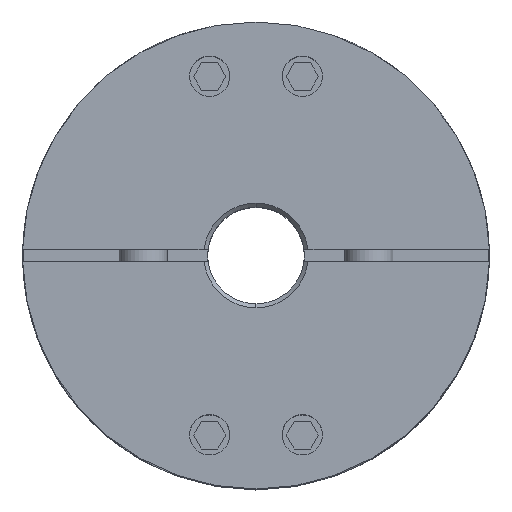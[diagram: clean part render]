
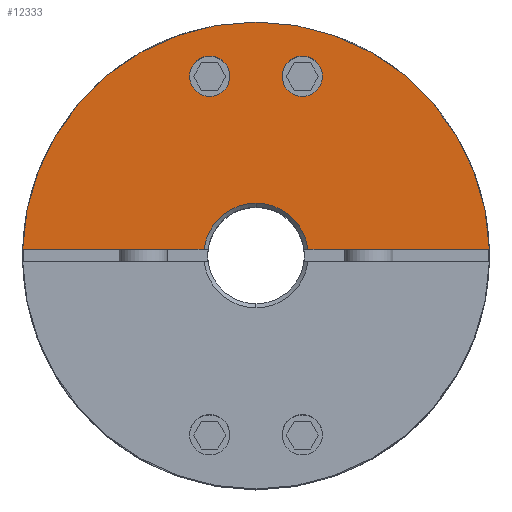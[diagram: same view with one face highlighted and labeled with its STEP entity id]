
A CAD part, top view. The second image highlights one B-rep face of the part: STEP entity #12333.
In plain terms, the highlighted planar face has unit normal (0, 0, 1).
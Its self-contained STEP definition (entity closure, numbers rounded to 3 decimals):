
#4817=CARTESIAN_POINT('',(5.759,24.767,35.75));
#4818=VERTEX_POINT('',#4817);
#4827=CARTESIAN_POINT('',(5.759,19.767,35.75));
#4828=VERTEX_POINT('',#4827);
#4829=CARTESIAN_POINT('',(5.759,22.267,35.75));
#4830=DIRECTION('',(0.0,0.0,-1.0));
#4831=DIRECTION('',(0.0,1.0,0.0));
#4832=AXIS2_PLACEMENT_3D('',#4829,#4830,#4831);
#4833=CIRCLE('',#4832,2.5);
#4834=EDGE_CURVE('',#4828,#4818,#4833,.T.);
#4859=CARTESIAN_POINT('',(-5.759,24.767,35.75));
#4860=VERTEX_POINT('',#4859);
#4869=CARTESIAN_POINT('',(-5.759,19.767,35.75));
#4870=VERTEX_POINT('',#4869);
#4871=CARTESIAN_POINT('',(-5.759,22.267,35.75));
#4872=DIRECTION('',(0.0,0.0,-1.0));
#4873=DIRECTION('',(0.0,1.0,0.0));
#4874=AXIS2_PLACEMENT_3D('',#4871,#4872,#4873);
#4875=CIRCLE('',#4874,2.5);
#4876=EDGE_CURVE('',#4870,#4860,#4875,.T.);
#5113=CARTESIAN_POINT('',(0.,29.0,35.75));
#5114=VERTEX_POINT('',#5113);
#5262=CARTESIAN_POINT('',(-28.99,0.75,35.75));
#5263=VERTEX_POINT('',#5262);
#5270=CARTESIAN_POINT('',(0.,0.0,35.75));
#5271=DIRECTION('',(0.0,0.0,-1.0));
#5272=DIRECTION('',(0.0,1.0,0.0));
#5273=AXIS2_PLACEMENT_3D('',#5270,#5271,#5272);
#5274=CIRCLE('',#5273,29.0);
#5275=EDGE_CURVE('',#5263,#5114,#5274,.T.);
#5447=CARTESIAN_POINT('',(0.,6.5,35.75));
#5448=VERTEX_POINT('',#5447);
#5464=CARTESIAN_POINT('',(6.457,0.75,35.75));
#5465=VERTEX_POINT('',#5464);
#5479=CARTESIAN_POINT('',(0.,0.0,35.75));
#5480=DIRECTION('',(0.0,0.0,1.0));
#5481=DIRECTION('',(0.0,1.0,0.0));
#5482=AXIS2_PLACEMENT_3D('',#5479,#5480,#5481);
#5483=CIRCLE('',#5482,6.5);
#5484=EDGE_CURVE('',#5465,#5448,#5483,.T.);
#11839=CARTESIAN_POINT('',(-6.457,0.75,35.75));
#11840=VERTEX_POINT('',#11839);
#11841=CARTESIAN_POINT('',(0.,0.0,35.75));
#11842=DIRECTION('',(0.0,0.0,1.0));
#11843=DIRECTION('',(0.0,1.0,0.0));
#11844=AXIS2_PLACEMENT_3D('',#11841,#11842,#11843);
#11845=CIRCLE('',#11844,6.5);
#11846=EDGE_CURVE('',#5448,#11840,#11845,.T.);
#11871=CARTESIAN_POINT('',(-28.99,0.75,35.75));
#11872=DIRECTION('',(1.0,0.0,0.0));
#11873=VECTOR('',#11872,22.534);
#11874=LINE('',#11871,#11873);
#11875=EDGE_CURVE('',#5263,#11840,#11874,.T.);
#11907=CARTESIAN_POINT('',(28.99,0.75,35.75));
#11908=VERTEX_POINT('',#11907);
#11915=CARTESIAN_POINT('',(6.457,0.75,35.75));
#11916=DIRECTION('',(1.0,0.0,0.0));
#11917=VECTOR('',#11916,22.534);
#11918=LINE('',#11915,#11917);
#11919=EDGE_CURVE('',#5465,#11908,#11918,.T.);
#12034=CARTESIAN_POINT('',(0.,0.0,35.75));
#12035=DIRECTION('',(0.0,0.0,-1.0));
#12036=DIRECTION('',(0.0,1.0,0.0));
#12037=AXIS2_PLACEMENT_3D('',#12034,#12035,#12036);
#12038=CIRCLE('',#12037,29.0);
#12039=EDGE_CURVE('',#5114,#11908,#12038,.T.);
#12272=CARTESIAN_POINT('',(-5.759,22.267,35.75));
#12273=DIRECTION('',(0.0,0.0,-1.0));
#12274=DIRECTION('',(0.0,1.0,0.0));
#12275=AXIS2_PLACEMENT_3D('',#12272,#12273,#12274);
#12276=CIRCLE('',#12275,2.5);
#12277=EDGE_CURVE('',#4860,#4870,#12276,.T.);
#12290=CARTESIAN_POINT('',(5.759,22.267,35.75));
#12291=DIRECTION('',(0.0,0.0,-1.0));
#12292=DIRECTION('',(0.0,1.0,0.0));
#12293=AXIS2_PLACEMENT_3D('',#12290,#12291,#12292);
#12294=CIRCLE('',#12293,2.5);
#12295=EDGE_CURVE('',#4818,#4828,#12294,.T.);
#12312=CARTESIAN_POINT('',(0.,2.636,35.75));
#12313=DIRECTION('',(0.0,0.0,1.0));
#12314=DIRECTION('',(0.0,1.0,0.0));
#12315=AXIS2_PLACEMENT_3D('',#12312,#12313,#12314);
#12316=PLANE('',#12315);
#12317=ORIENTED_EDGE('',*,*,#5484,.F.);
#12318=ORIENTED_EDGE('',*,*,#11919,.T.);
#12319=ORIENTED_EDGE('',*,*,#12039,.F.);
#12320=ORIENTED_EDGE('',*,*,#5275,.F.);
#12321=ORIENTED_EDGE('',*,*,#11875,.T.);
#12322=ORIENTED_EDGE('',*,*,#11846,.F.);
#12323=EDGE_LOOP('',(#12317,#12318,#12319,#12320,#12321,#12322));
#12324=FACE_OUTER_BOUND('',#12323,.T.);
#12325=ORIENTED_EDGE('',*,*,#12277,.T.);
#12326=ORIENTED_EDGE('',*,*,#4876,.T.);
#12327=EDGE_LOOP('',(#12325,#12326));
#12328=FACE_BOUND('',#12327,.T.);
#12329=ORIENTED_EDGE('',*,*,#12295,.T.);
#12330=ORIENTED_EDGE('',*,*,#4834,.T.);
#12331=EDGE_LOOP('',(#12329,#12330));
#12332=FACE_BOUND('',#12331,.T.);
#12333=ADVANCED_FACE('',(#12324,#12328,#12332),#12316,.T.);
